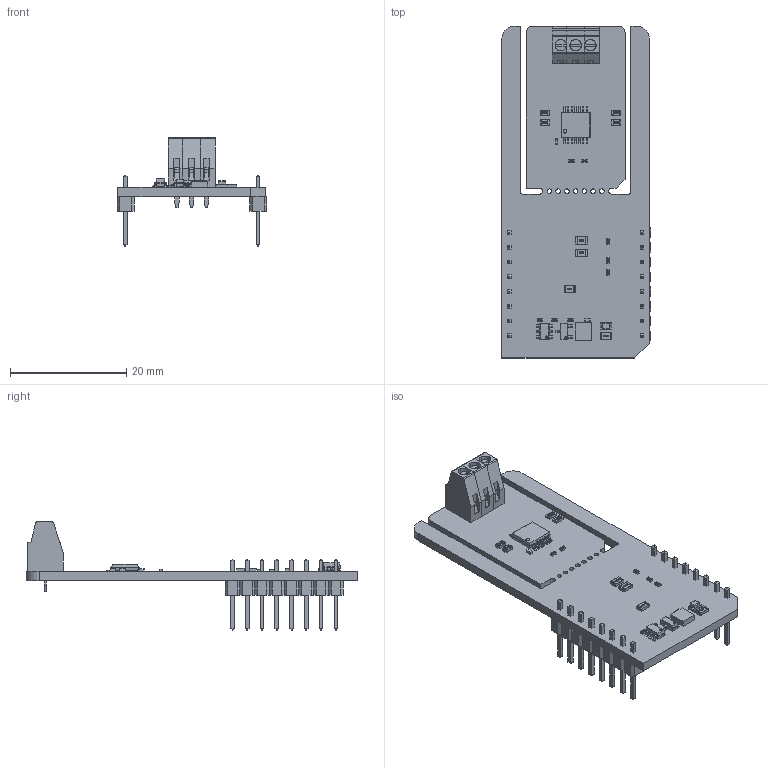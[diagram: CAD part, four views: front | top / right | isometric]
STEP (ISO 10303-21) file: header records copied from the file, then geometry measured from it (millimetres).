
FILE_DESCRIPTION(('Open CASCADE Model'),'2;1');
FILE_NAME('Open CASCADE Shape Model','2026-01-14T12:10:15',('Author'),( 'Open CASCADE'),'Open CASCADE STEP processor 6.8','Open CASCADE 6.8' ,'Unknown');
FILE_SCHEMA(('AUTOMOTIVE_DESIGN { 1 0 10303 214 1 1 1 1 }'));
Length unit declared in the file: millimetre
Products named in the file (47): PCB; Board; R9; User_Library-R_0402; R7; R8; R6; R5; JP7; User_Library-R_0603; JP6; User_Library-R_0805; JP5; JP4; JP3; JP2; CN1; ScrewTerminal_2.54; C2; User_Library-SMD_CAPACITOR0402; U3; User_Library-TSSOP-14; User_Library-TSSOP-14__X2_041A043E0440043F04430441_X0_; User_Library-TSSOP-14__X2_041C04350442043A0430_X0_; User_Library-TSSOP-14__X2_041D043E0436043A0430_X0_; C1; LD1; led_0805_green; Q1; SOT23-3; R1; R2; R3; R4; U1; 1018003672; Extruded; U2; User_Library-SOT23-6-2; JP1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
Assembly tree (69 placements, depth 7):
  PCB
    Board
    R9
      User_Library-R_0402
    R7
      User_Library-R_0402
    R8
      User_Library-R_0402
    R6
      User_Library-R_0402
    R5
      User_Library-R_0402
    JP7
      User_Library-R_0603
    JP6
      User_Library-R_0805
    JP5
      User_Library-R_0603
    JP4
      User_Library-R_0805
    JP3
      User_Library-R_0603
    JP2
      User_Library-R_0603
    CN1
      ScrewTerminal_2.54  x2
    C2
      User_Library-SMD_CAPACITOR0402
    U3
      User_Library-TSSOP-14
        User_Library-TSSOP-14__X2_041A043E0440043F04430441_X0_
        User_Library-TSSOP-14__X2_041C04350442043A0430_X0_
        User_Library-TSSOP-14__X2_041D043E0436043A0430_X0_  x7
    C1
      User_Library-SMD_CAPACITOR0402
    LD1
      led_0805_green
    Q1
      SOT23-3
    R1
      User_Library-R_0805
    R2
      User_Library-R_0402
    R3
      User_Library-R_0402
    R4
      User_Library-R_0402
    U1
      1018003672
        Extruded
    U2
      User_Library-SOT23-6-2
    JP1
      User_Library-R_0805
    MBD1
      Header_1x8  x2
        PCB
          Free-Models
            1240637040  x2
              User_Library-PinHeaderX5-1_PinHeaderX5_Body_1
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Bounding box: 25.78 x 57.15 x 18.61 mm (x, y, z)
Volume: 3060.6 mm3; surface area: 6216 mm2
Topology: 109 solids, 109 shells, 2839 faces, 7192 edges, 4680 vertices
Faces by surface type: plane 2023, bspline 556, cylinder 236, sphere 24
Full cylindrical faces by diameter (mm): 0.8 x7
Entity records: 38641 total; most frequent: CARTESIAN_POINT 11978, ORIENTED_EDGE 4582, DIRECTION 4075, EDGE_CURVE 2291, LINE 1781, VECTOR 1781, VERTEX_POINT 1478, AXIS2_PLACEMENT_3D 1147
